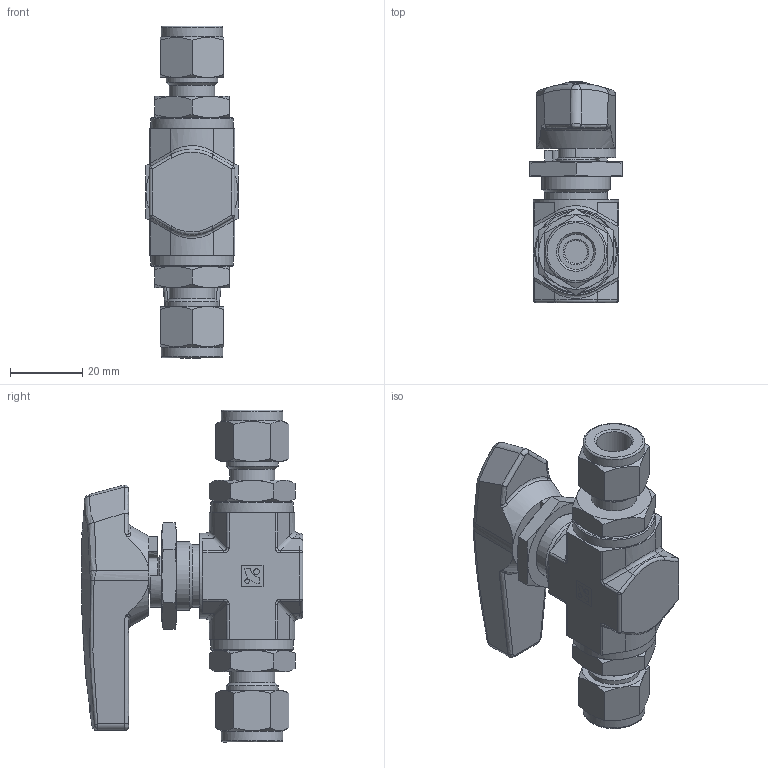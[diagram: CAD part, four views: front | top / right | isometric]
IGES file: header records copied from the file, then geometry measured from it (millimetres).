
Global section: file name: SBVF3602-S6; native system: Autodesk Inventor 2016; preprocessor: unknown; author: DESIGNPC2; date: 20160611.112223; units: millimetre
Bounding box: 25.4 x 61.2 x 91.63 mm (x, y, z)
Volume: 49791 mm3; surface area: 18174.7 mm2
Topology: 5 solids, 5 shells, 531 faces, 1351 edges, 869 vertices
Faces by surface type: bspline 531
